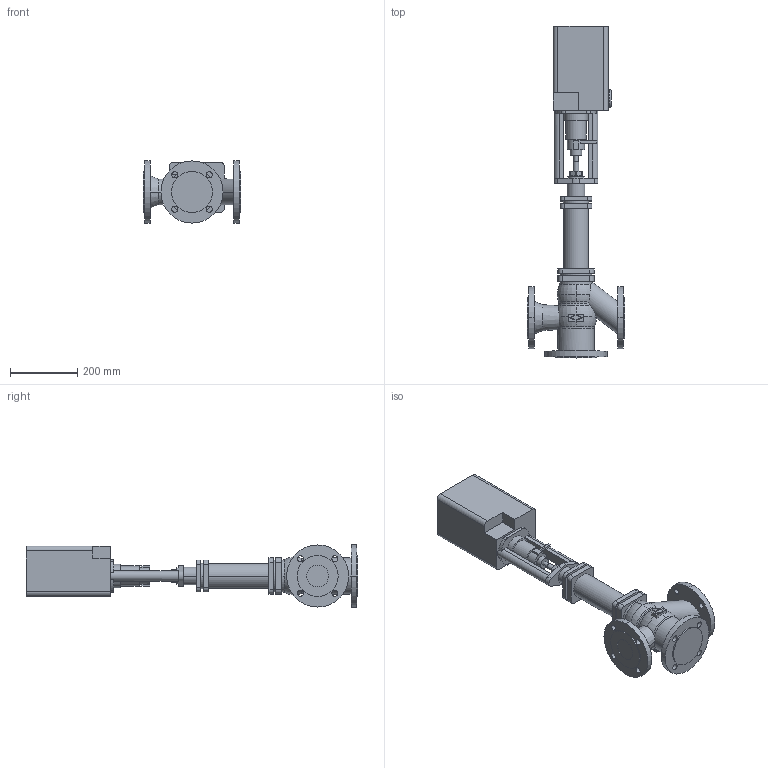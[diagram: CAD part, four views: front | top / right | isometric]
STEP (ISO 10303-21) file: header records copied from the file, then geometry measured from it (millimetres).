
FILE_DESCRIPTION(('OneSpaceDesigner STEP Export'),'2;1');
FILE_NAME('c000000420.stp','2006-09-21T11:37:15',(''),(''),'OneSpace Designer STEP processor for AP214 (Solid Model)','OneSpace Designer 13.20A 18-Aug-2005 (C) CoCreate Software GmbH','');
FILE_SCHEMA(('AUTOMOTIVE_DESIGN { 1 0 10303 214 1 1 1 1 }'));
Length unit declared in the file: millimetre
Products named in the file (2): 1; 2
Bounding box: 290 x 989 x 185 mm (x, y, z)
Volume: 12659814.8 mm3; surface area: 689621.1 mm2
Topology: 2 solids, 2 shells, 250 faces, 639 edges, 423 vertices
Faces by surface type: plane 114, cylinder 112, torus 20, cone 4
Entity records: 7122 total; most frequent: CARTESIAN_POINT 1354, ORIENTED_EDGE 1278, DIRECTION 1091, EDGE_CURVE 639, VERTEX_POINT 423, AXIS2_PLACEMENT_3D 384, VECTOR 323, LINE 323
